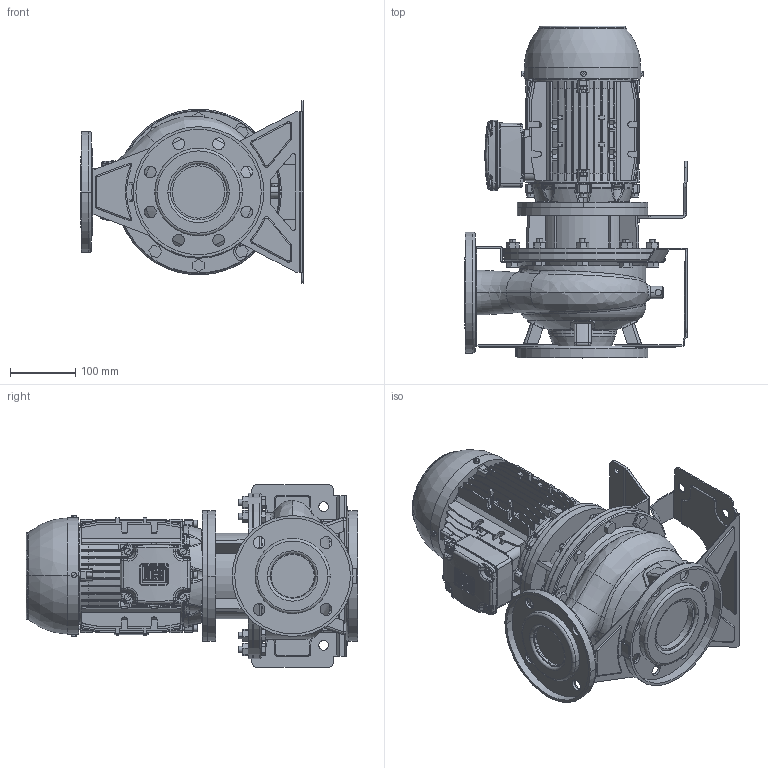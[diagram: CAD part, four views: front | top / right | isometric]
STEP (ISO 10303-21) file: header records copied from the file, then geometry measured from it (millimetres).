
FILE_DESCRIPTION (( 'STEP AP214' ), '1' );
FILE_NAME ('3LS4 65-125_1.1_(90SL)_W21.STEP', '2026-10-05T01:27:49', ( '' ), ( '' ), 'SwSTEP 2.0', 'SolidWorks 2024', '' );
FILE_SCHEMA (( 'AUTOMOTIVE_DESIGN' ));
Length unit declared in the file: inch
Products named in the file (3): 90S_L ALIE3_W21T_B5; 3SF4_65-125_1_1; 3LS4 65-125_1.1_(90SL)_W21
Assembly tree (2 placements, depth 2):
  3LS4 65-125_1.1_(90SL)_W21
    3SF4_65-125_1_1
    90S_L ALIE3_W21T_B5
Bounding box: 340 x 508 x 280 mm (x, y, z)
Volume: 11580800 mm3; surface area: 1335956.3 mm2
Topology: 12 solids, 16 shells, 3146 faces, 8310 edges, 5391 vertices
Faces by surface type: plane 1859, cylinder 748, bspline 220, torus 168, cone 115, sphere 36
Entity records: 162457 total; most frequent: CARTESIAN_POINT 86201, ORIENTED_EDGE 16564, DIRECTION 14672, EDGE_CURVE 8282, VERTEX_POINT 5391, VECTOR 5172, LINE 5172, AXIS2_PLACEMENT_3D 4750
